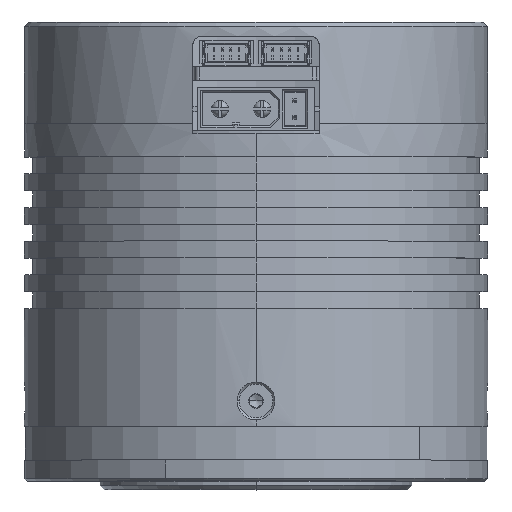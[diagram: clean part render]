
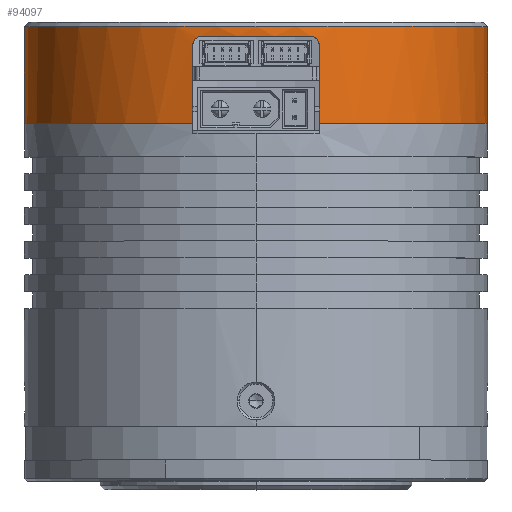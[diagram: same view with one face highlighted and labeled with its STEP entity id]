
A CAD part, top view. The second image highlights one B-rep face of the part: STEP entity #94097.
In plain terms, the highlighted cylindrical face has radius 27.5 mm (diameter 55 mm), a partial arc.
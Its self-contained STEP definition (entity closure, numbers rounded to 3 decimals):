
#447 = CARTESIAN_POINT ( 'NONE',  ( -6.5, 1.7, 26.721 ) ) ;
#5414 = VERTEX_POINT ( 'NONE', #28000 ) ;
#6227 = CARTESIAN_POINT ( 'NONE',  ( -7., 1.824, 26.594 ) ) ;
#10616 = DIRECTION ( 'NONE',  ( 1., 0., 0. ) ) ;
#10739 = CARTESIAN_POINT ( 'NONE',  ( -27.5, 12., 0. ) ) ;
#11012 = CIRCLE ( 'NONE', #64623, 27.5 ) ;
#11208 = B_SPLINE_CURVE_WITH_KNOTS ( 'NONE', 3,
 ( #79074, #42130, #65137, #14273, #93959, #87214, #43523, #29160, #21955, #51209 ),
 .UNSPECIFIED., .F., .F.,
 ( 4, 2, 2, 2, 4 ),
 ( 0., 0.25, 0.5, 0.75, 1. ),
 .UNSPECIFIED. ) ;
#11232 = LINE ( 'NONE', #10739, #56025 ) ;
#11678 = CARTESIAN_POINT ( 'NONE',  ( 0., 12., 0. ) ) ;
#11747 = DIRECTION ( 'NONE',  ( 0., -1., 0. ) ) ;
#11786 = LINE ( 'NONE', #62134, #77550 ) ;
#13094 = CYLINDRICAL_SURFACE ( 'NONE', #67376, 27.5 ) ;
#13509 = DIRECTION ( 'NONE',  ( 0., -1., 0. ) ) ;
#14273 = CARTESIAN_POINT ( 'NONE',  ( 7.37, 2.189, 26.494 ) ) ;
#14355 = LINE ( 'NONE', #34585, #56448 ) ;
#14820 = CARTESIAN_POINT ( 'NONE',  ( -6.631, 1.7, 26.689 ) ) ;
#14865 = EDGE_CURVE ( 'NONE', #68010, #31999, #11232, .T. ) ;
#17348 = DIRECTION ( 'NONE',  ( 0., 1., 0. ) ) ;
#17970 = ORIENTED_EDGE ( 'NONE', *, *, #74901, .F. ) ;
#18937 = CARTESIAN_POINT ( 'NONE',  ( -7.5, 12., 26.458 ) ) ;
#21517 = VERTEX_POINT ( 'NONE', #75458 ) ;
#21565 = CARTESIAN_POINT ( 'NONE',  ( -7.5, 2.566, 26.458 ) ) ;
#21882 = EDGE_CURVE ( 'NONE', #85593, #93891, #61439, .T. ) ;
#21955 = CARTESIAN_POINT ( 'NONE',  ( 6.631, 1.7, 26.689 ) ) ;
#22606 = EDGE_CURVE ( 'NONE', #30387, #68010, #11012, .T. ) ;
#27827 = CARTESIAN_POINT ( 'NONE',  ( -7.367, 2.186, 26.495 ) ) ;
#27915 = CARTESIAN_POINT ( 'NONE',  ( 0., 12., 0. ) ) ;
#28000 = CARTESIAN_POINT ( 'NONE',  ( 27.5, 0.5, 0. ) ) ;
#28022 = CARTESIAN_POINT ( 'NONE',  ( 0., 1.7, 0. ) ) ;
#29146 = AXIS2_PLACEMENT_3D ( 'NONE', #33193, #17348, #10616 ) ;
#29160 = CARTESIAN_POINT ( 'NONE',  ( 6.758, 1.725, 26.657 ) ) ;
#29208 = CARTESIAN_POINT ( 'NONE',  ( 27.5, 12., 0. ) ) ;
#29720 = CARTESIAN_POINT ( 'NONE',  ( -7.5, 2.7, 26.458 ) ) ;
#30387 = VERTEX_POINT ( 'NONE', #45788 ) ;
#31052 = DIRECTION ( 'NONE',  ( 1., 0., 0. ) ) ;
#31999 = VERTEX_POINT ( 'NONE', #50259 ) ;
#33193 = CARTESIAN_POINT ( 'NONE',  ( 0., 0.5, 0. ) ) ;
#34585 = CARTESIAN_POINT ( 'NONE',  ( 7.5, 12., 26.458 ) ) ;
#35513 = CARTESIAN_POINT ( 'NONE',  ( -7.108, 1.895, 26.566 ) ) ;
#35753 = EDGE_CURVE ( 'NONE', #31999, #5414, #62805, .T. ) ;
#35853 = ORIENTED_EDGE ( 'NONE', *, *, #35753, .T. ) ;
#40036 = AXIS2_PLACEMENT_3D ( 'NONE', #80496, #66545, #31052 ) ;
#40145 = ORIENTED_EDGE ( 'NONE', *, *, #22606, .T. ) ;
#40222 = CARTESIAN_POINT ( 'NONE',  ( 6.5, 1.7, 26.721 ) ) ;
#40471 = DIRECTION ( 'NONE',  ( 0., -1., 0. ) ) ;
#41834 = DIRECTION ( 'NONE',  ( 1., 0., 0. ) ) ;
#42130 = CARTESIAN_POINT ( 'NONE',  ( 7.5, 2.565, 26.458 ) ) ;
#43523 = CARTESIAN_POINT ( 'NONE',  ( 7., 1.824, 26.594 ) ) ;
#44510 = VERTEX_POINT ( 'NONE', #66208 ) ;
#45788 = CARTESIAN_POINT ( 'NONE',  ( -7.5, 12., 26.458 ) ) ;
#47697 = VERTEX_POINT ( 'NONE', #40222 ) ;
#47698 = LINE ( 'NONE', #18937, #92043 ) ;
#49557 = CIRCLE ( 'NONE', #64808, 27.5 ) ;
#50227 = CARTESIAN_POINT ( 'NONE',  ( 7.5, 12., 26.458 ) ) ;
#50259 = CARTESIAN_POINT ( 'NONE',  ( -27.5, 0.5, 0. ) ) ;
#50873 = ORIENTED_EDGE ( 'NONE', *, *, #58860, .T. ) ;
#51209 = CARTESIAN_POINT ( 'NONE',  ( 6.5, 1.7, 26.721 ) ) ;
#51728 = ORIENTED_EDGE ( 'NONE', *, *, #63025, .T. ) ;
#54602 = CARTESIAN_POINT ( 'NONE',  ( -27.5, 12., 0. ) ) ;
#54679 = ORIENTED_EDGE ( 'NONE', *, *, #77862, .T. ) ;
#56025 = VECTOR ( 'NONE', #40471, 1000. ) ;
#56448 = VECTOR ( 'NONE', #87766, 1000. ) ;
#57046 = CARTESIAN_POINT ( 'NONE',  ( -7.473, 2.437, 26.465 ) ) ;
#58027 = ORIENTED_EDGE ( 'NONE', *, *, #14865, .T. ) ;
#58442 = CARTESIAN_POINT ( 'NONE',  ( -7.295, 2.079, 26.515 ) ) ;
#58860 = EDGE_CURVE ( 'NONE', #21517, #47697, #11208, .T. ) ;
#60170 = ORIENTED_EDGE ( 'NONE', *, *, #82195, .F. ) ;
#61439 = CIRCLE ( 'NONE', #40036, 27.5 ) ;
#62134 = CARTESIAN_POINT ( 'NONE',  ( 27.5, 12., 0. ) ) ;
#62805 = CIRCLE ( 'NONE', #29146, 27.5 ) ;
#63025 = EDGE_CURVE ( 'NONE', #47697, #80395, #49557, .T. ) ;
#63508 = EDGE_LOOP ( 'NONE', ( #40145, #58027, #35853, #60170, #86588, #87270, #50873, #51728, #54679, #17970 ) ) ;
#64263 = CARTESIAN_POINT ( 'NONE',  ( -6.756, 1.725, 26.657 ) ) ;
#64623 = AXIS2_PLACEMENT_3D ( 'NONE', #27915, #13509, #41834 ) ;
#64808 = AXIS2_PLACEMENT_3D ( 'NONE', #28022, #80737, #93289 ) ;
#65137 = CARTESIAN_POINT ( 'NONE',  ( 7.473, 2.435, 26.465 ) ) ;
#66208 = CARTESIAN_POINT ( 'NONE',  ( -7.5, 2.7, 26.458 ) ) ;
#66545 = DIRECTION ( 'NONE',  ( 0., -1., 0. ) ) ;
#67376 = AXIS2_PLACEMENT_3D ( 'NONE', #11678, #76903, #70669 ) ;
#68010 = VERTEX_POINT ( 'NONE', #54602 ) ;
#70669 = DIRECTION ( 'NONE',  ( 1., 0., 0. ) ) ;
#74901 = EDGE_CURVE ( 'NONE', #30387, #44510, #47698, .T. ) ;
#75458 = CARTESIAN_POINT ( 'NONE',  ( 7.5, 2.7, 26.458 ) ) ;
#76903 = DIRECTION ( 'NONE',  ( 0., -1., 0. ) ) ;
#77550 = VECTOR ( 'NONE', #91448, 1000. ) ;
#77862 = EDGE_CURVE ( 'NONE', #80395, #44510, #81743, .T. ) ;
#79074 = CARTESIAN_POINT ( 'NONE',  ( 7.5, 2.7, 26.458 ) ) ;
#80395 = VERTEX_POINT ( 'NONE', #87585 ) ;
#80496 = CARTESIAN_POINT ( 'NONE',  ( 0., 12., 0. ) ) ;
#80737 = DIRECTION ( 'NONE',  ( 0., -1., 0. ) ) ;
#81743 = B_SPLINE_CURVE_WITH_KNOTS ( 'NONE', 3,
 ( #447, #14820, #64263, #6227, #35513, #58442, #27827, #57046, #21565, #29720 ),
 .UNSPECIFIED., .F., .F.,
 ( 4, 2, 2, 2, 4 ),
 ( 0., 0.25, 0.5, 0.75, 1. ),
 .UNSPECIFIED. ) ;
#82195 = EDGE_CURVE ( 'NONE', #85593, #5414, #11786, .T. ) ;
#85076 = FACE_OUTER_BOUND ( 'NONE', #63508, .T. ) ;
#85593 = VERTEX_POINT ( 'NONE', #29208 ) ;
#86588 = ORIENTED_EDGE ( 'NONE', *, *, #21882, .T. ) ;
#87214 = CARTESIAN_POINT ( 'NONE',  ( 7.108, 1.896, 26.566 ) ) ;
#87270 = ORIENTED_EDGE ( 'NONE', *, *, #92358, .F. ) ;
#87585 = CARTESIAN_POINT ( 'NONE',  ( -6.5, 1.7, 26.721 ) ) ;
#87766 = DIRECTION ( 'NONE',  ( 0., 1., 0. ) ) ;
#91448 = DIRECTION ( 'NONE',  ( 0., -1., 0. ) ) ;
#92043 = VECTOR ( 'NONE', #11747, 1000. ) ;
#92358 = EDGE_CURVE ( 'NONE', #21517, #93891, #14355, .T. ) ;
#93289 = DIRECTION ( 'NONE',  ( 0., 0., 1. ) ) ;
#93891 = VERTEX_POINT ( 'NONE', #50227 ) ;
#93959 = CARTESIAN_POINT ( 'NONE',  ( 7.296, 2.08, 26.515 ) ) ;
#94097 = ADVANCED_FACE ( 'NONE', ( #85076 ), #13094, .T. ) ;
